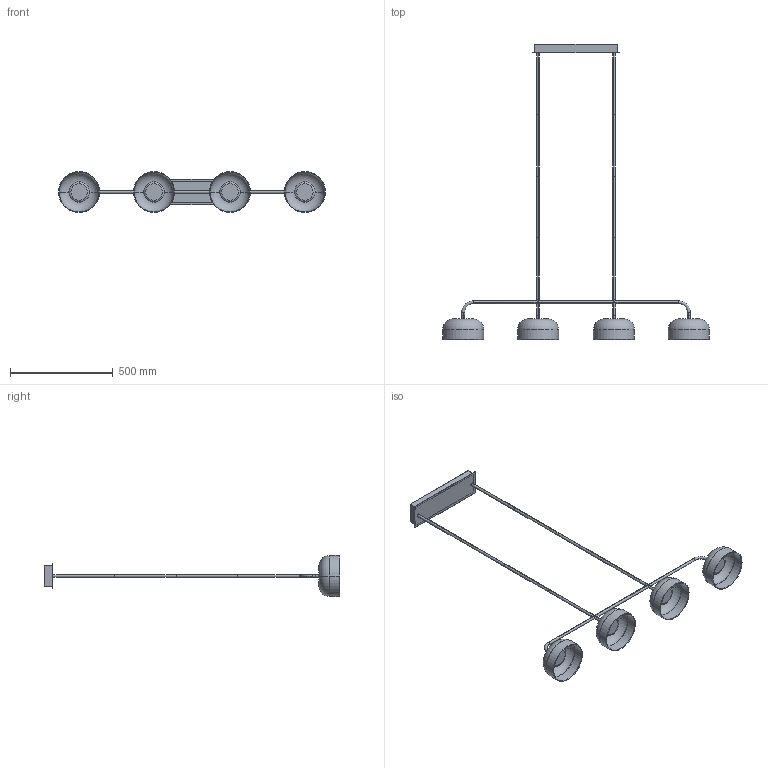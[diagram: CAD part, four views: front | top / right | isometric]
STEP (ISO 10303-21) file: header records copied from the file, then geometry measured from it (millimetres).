
FILE_DESCRIPTION (( 'STEP AP214' ), '1' );
FILE_NAME ('IPON_CU1316_4.STEP', '2026-06-04T13:17:40', ( '' ), ( '' ), 'SwSTEP 2.0', 'SolidWorks 2023', '' );
FILE_SCHEMA (( 'AUTOMOTIVE_DESIGN' ));
Length unit declared in the file: millimetre
Products named in the file (3): cuerpo; IPON_CU1316_4; IPON_C1316-4
Assembly tree (5 placements, depth 2):
  IPON_CU1316_4
    cuerpo
    IPON_C1316-4  x4
Bounding box: 1300 x 1439 x 200 mm (x, y, z)
Volume: 2894745.3 mm3; surface area: 1360530.6 mm2
Topology: 31 solids, 31 shells, 217 faces, 382 edges, 232 vertices
Faces by surface type: cylinder 90, plane 83, torus 44
Entity records: 2978 total; most frequent: DIRECTION 544, CARTESIAN_POINT 470, ORIENTED_EDGE 404, AXIS2_PLACEMENT_3D 230, EDGE_CURVE 202, VERTEX_POINT 124, EDGE_LOOP 114, ADVANCED_FACE 112
